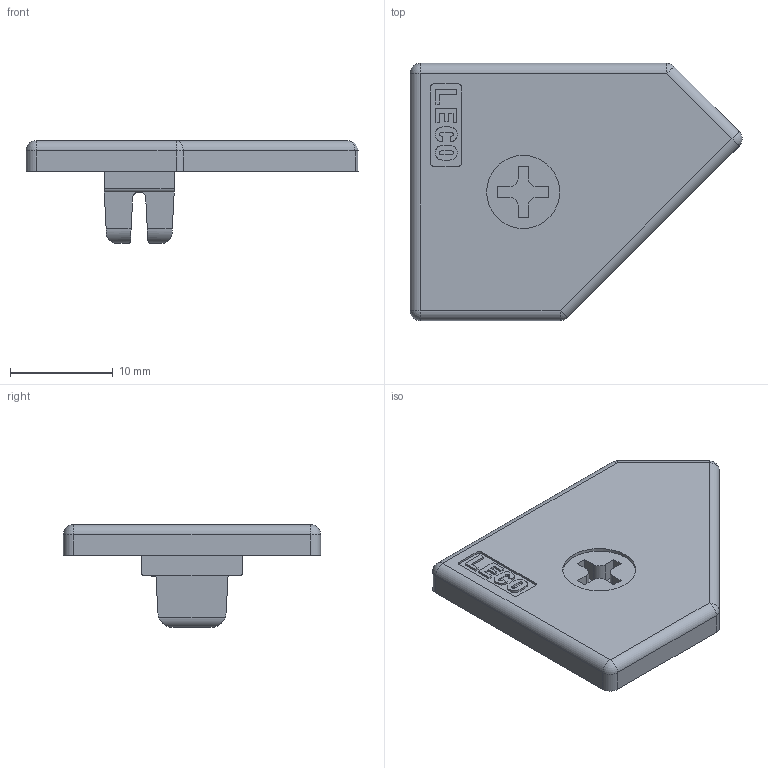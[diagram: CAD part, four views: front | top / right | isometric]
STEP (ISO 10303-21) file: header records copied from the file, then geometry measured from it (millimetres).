
FILE_DESCRIPTION(('STEP AP214'),'1');
FILE_NAME('E25P-L.stp','2017-07-18T02:58:20',(' '),(' '),'Spatial InterOp 3D',' ',' ');
FILE_SCHEMA(('automotive_design'));
Length unit declared in the file: millimetre
Products named in the file (1): E25P-L
Bounding box: 32.26 x 25 x 10 mm (x, y, z)
Volume: 1993.7 mm3; surface area: 1856 mm2
Topology: 1 solids, 1 shells, 140 faces, 370 edges, 237 vertices
Faces by surface type: plane 72, cylinder 63, sphere 5
Full cylindrical faces by diameter (mm): 7.1 x1
Entity records: 5466 total; most frequent: CARTESIAN_POINT 798, DIRECTION 756, ORIENTED_EDGE 728, EDGE_CURVE 364, AXIS2_PLACEMENT_3D 259, LINE 238, VECTOR 238, VERTEX_POINT 237
